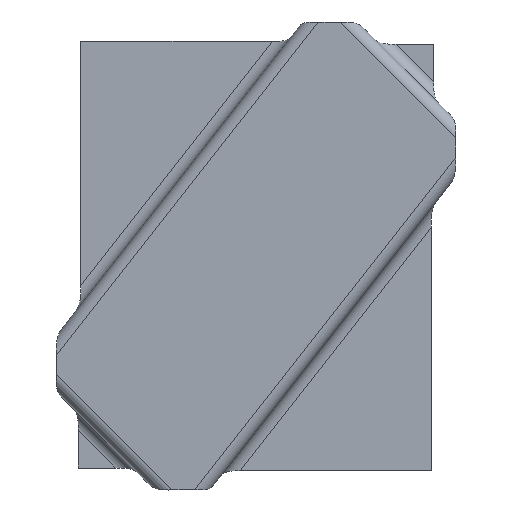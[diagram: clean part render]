
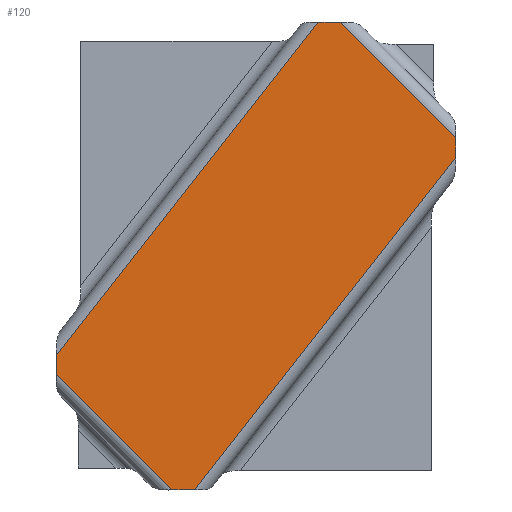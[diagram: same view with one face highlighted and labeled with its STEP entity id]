
A CAD part, top view. The second image highlights one B-rep face of the part: STEP entity #120.
In plain terms, the highlighted planar face has unit normal (0, 0, -1).
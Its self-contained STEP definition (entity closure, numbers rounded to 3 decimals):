
#53=CARTESIAN_POINT('Axis2P3D Location',(-51.002,40.054,65.35)) ;
#59=CARTESIAN_POINT('Control Point',(-51.002,79.5,65.35)) ;
#60=CARTESIAN_POINT('Control Point',(25.612,177.054,65.35)) ;
#61=CARTESIAN_POINT('Vertex',(-51.002,79.5,65.35)) ;
#63=CARTESIAN_POINT('Vertex',(25.612,177.054,65.35)) ;
#66=CARTESIAN_POINT('Line Origine',(7.498,177.054,65.35)) ;
#70=CARTESIAN_POINT('Vertex',(32.172,177.054,65.35)) ;
#74=CARTESIAN_POINT('Control Point',(32.172,177.054,65.35)) ;
#75=CARTESIAN_POINT('Control Point',(65.998,143.228,65.35)) ;
#76=CARTESIAN_POINT('Vertex',(65.998,143.228,65.35)) ;
#79=CARTESIAN_POINT('Line Origine',(65.998,108.554,65.35)) ;
#83=CARTESIAN_POINT('Vertex',(65.998,137.389,65.35)) ;
#87=CARTESIAN_POINT('Control Point',(65.998,137.389,65.35)) ;
#88=CARTESIAN_POINT('Control Point',(-10.444,40.054,65.35)) ;
#89=CARTESIAN_POINT('Vertex',(-10.444,40.054,65.35)) ;
#92=CARTESIAN_POINT('Line Origine',(7.498,40.054,65.35)) ;
#96=CARTESIAN_POINT('Vertex',(-17.176,40.054,65.35)) ;
#100=CARTESIAN_POINT('Control Point',(-51.002,73.88,65.35)) ;
#101=CARTESIAN_POINT('Control Point',(-17.176,40.054,65.35)) ;
#102=CARTESIAN_POINT('Vertex',(-51.002,73.88,65.35)) ;
#105=CARTESIAN_POINT('Line Origine',(-51.002,108.554,65.35)) ;
#54=DIRECTION('Axis2P3D Direction',(0.,0.,1.)) ;
#55=DIRECTION('Axis2P3D XDirection',(1.,0.,0.)) ;
#67=DIRECTION('Vector Direction',(1.,0.,0.)) ;
#80=DIRECTION('Vector Direction',(0.,1.,0.)) ;
#93=DIRECTION('Vector Direction',(1.,0.,0.)) ;
#106=DIRECTION('Vector Direction',(0.,1.,0.)) ;
#56=AXIS2_PLACEMENT_3D('Plane Axis2P3D',#53,#54,#55) ;
#111=ORIENTED_EDGE('',*,*,#65,.T.) ;
#112=ORIENTED_EDGE('',*,*,#72,.T.) ;
#113=ORIENTED_EDGE('',*,*,#78,.T.) ;
#114=ORIENTED_EDGE('',*,*,#85,.T.) ;
#115=ORIENTED_EDGE('',*,*,#91,.T.) ;
#116=ORIENTED_EDGE('',*,*,#98,.T.) ;
#117=ORIENTED_EDGE('',*,*,#104,.F.) ;
#118=ORIENTED_EDGE('',*,*,#109,.T.) ;
#68=VECTOR('Line Direction',#67,1.) ;
#81=VECTOR('Line Direction',#80,1.) ;
#94=VECTOR('Line Direction',#93,1.) ;
#107=VECTOR('Line Direction',#106,1.) ;
#120=ADVANCED_FACE('Offset.1',(#119),#57,.F.) ;
#58=B_SPLINE_CURVE_WITH_KNOTS('',1,(#59,#60),.UNSPECIFIED.,.F.,.U.,(2,2),(-62.021,62.021),.UNSPECIFIED.) ;
#73=B_SPLINE_CURVE_WITH_KNOTS('',1,(#74,#75),.UNSPECIFIED.,.F.,.U.,(2,2),(-23.919,23.919),.UNSPECIFIED.) ;
#86=B_SPLINE_CURVE_WITH_KNOTS('',1,(#87,#88),.UNSPECIFIED.,.F.,.U.,(2,2),(-61.882,61.882),.UNSPECIFIED.) ;
#99=B_SPLINE_CURVE_WITH_KNOTS('',1,(#100,#101),.UNSPECIFIED.,.F.,.U.,(2,2),(-23.919,23.919),.UNSPECIFIED.) ;
#65=EDGE_CURVE('',#62,#64,#58,.T.) ;
#72=EDGE_CURVE('',#64,#71,#69,.T.) ;
#78=EDGE_CURVE('',#71,#77,#73,.T.) ;
#85=EDGE_CURVE('',#77,#84,#82,.F.) ;
#91=EDGE_CURVE('',#84,#90,#86,.T.) ;
#98=EDGE_CURVE('',#90,#97,#95,.F.) ;
#104=EDGE_CURVE('',#103,#97,#99,.T.) ;
#109=EDGE_CURVE('',#103,#62,#108,.T.) ;
#110=EDGE_LOOP('',(#111,#112,#113,#114,#115,#116,#117,#118)) ;
#119=FACE_OUTER_BOUND('',#110,.T.) ;
#69=LINE('Line',#66,#68) ;
#82=LINE('Line',#79,#81) ;
#95=LINE('Line',#92,#94) ;
#108=LINE('Line',#105,#107) ;
#57=PLANE('',#56) ;
#62=VERTEX_POINT('',#61) ;
#64=VERTEX_POINT('',#63) ;
#71=VERTEX_POINT('',#70) ;
#77=VERTEX_POINT('',#76) ;
#84=VERTEX_POINT('',#83) ;
#90=VERTEX_POINT('',#89) ;
#97=VERTEX_POINT('',#96) ;
#103=VERTEX_POINT('',#102) ;
